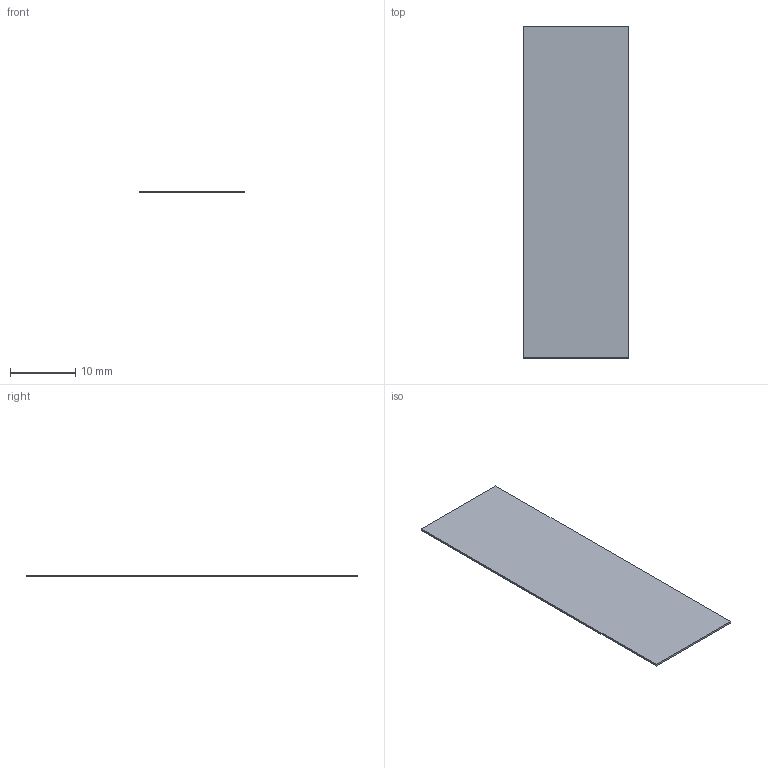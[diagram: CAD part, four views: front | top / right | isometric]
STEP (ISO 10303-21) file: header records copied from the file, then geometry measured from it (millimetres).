
FILE_DESCRIPTION(('CATIA V5 STEP Exchange','CAx-IF Rec.Pracs.--- Model Styling and Organization---1.4--- 2014-01-23'),'2;1');
FILE_NAME('F:\Firma-Sicherungskopie\Projekte\821253_Rockwell-Clear-MultiPrint-2020\Simple3D\PN-582666_1492-MHS10X50.stp','2020-11-04T07:52:22+00:00',('none'),('none'),'CATIA Version 5-6 Release 2016 SP3 HF44','CATIA V5 STEP AP214','none');
FILE_SCHEMA(('AUTOMOTIVE_DESIGN { 1 0 10303 214 1 1 1 1 }'));
Length unit declared in the file: millimetre
Products named in the file (1): 63264_HS_3-2_9-5X50_MM
Bounding box: 16.1 x 50.8 x 0.3 mm (x, y, z)
Volume: 245.4 mm3; surface area: 1675.9 mm2
Topology: 1 solids, 1 shells, 6 faces, 12 edges, 8 vertices
Faces by surface type: plane 6
Entity records: 177 total; most frequent: CARTESIAN_POINT 27, DIRECTION 24, ORIENTED_EDGE 24, VECTOR 12, EDGE_CURVE 12, LINE 12, VERTEX_POINT 8, AXIS2_PLACEMENT_3D 7
